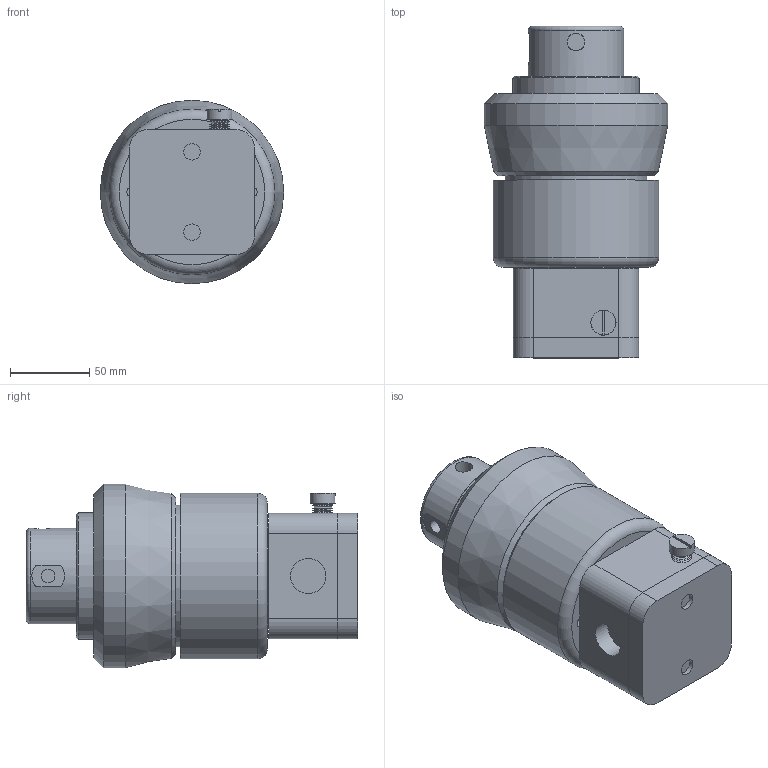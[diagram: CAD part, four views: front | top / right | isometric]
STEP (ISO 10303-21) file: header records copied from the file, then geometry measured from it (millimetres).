
FILE_DESCRIPTION (( 'STEP AP214' ), '1' );
FILE_NAME ('DBH030 INLINE.STEP', '2013-04-24T15:31:41', ( '' ), ( '' ), 'SwSTEP 2.0', 'SolidWorks 2012', '' );
FILE_SCHEMA (( 'AUTOMOTIVE_DESIGN' ));
Length unit declared in the file: inch
Products named in the file (1): DBH030 INLINE
Bounding box: 116.08 x 209.96 x 116.08 mm (x, y, z)
Volume: 1860479.9 mm3; surface area: 173088 mm2
Topology: 12 solids, 12 shells, 258 faces, 511 edges, 314 vertices
Faces by surface type: cone 97, plane 82, cylinder 76, torus 3
Full cylindrical faces by diameter (mm): 3.251 x16, 6.35 x2, 6.775 x3, 8.611 x1, 10.264 x15, 10.312 x2, 11.125 x1, 11.43 x3, 15.875 x1, 18.923 x3, 22.225 x2, 60.325 x1, 62.332 x1, 62.611 x1, 70.358 x1, 80.01 x1, 89.332 x1, 104.775 x1, 116.078 x1
Entity records: 5927 total; most frequent: DIRECTION 1078, CARTESIAN_POINT 986, ORIENTED_EDGE 638, AXIS2_PLACEMENT_3D 503, EDGE_LOOP 452, EDGE_CURVE 319, FACE_OUTER_BOUND 318, VERTEX_POINT 279
